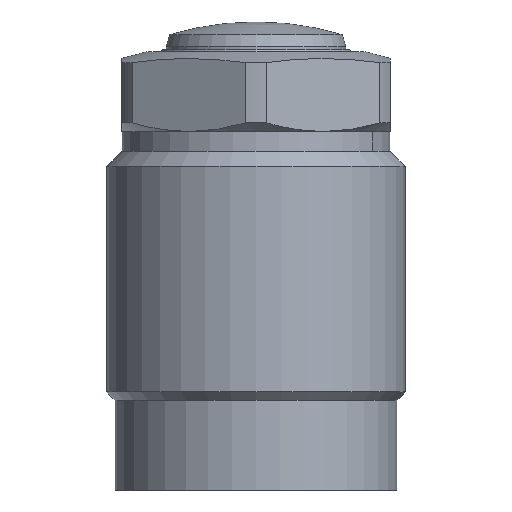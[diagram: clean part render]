
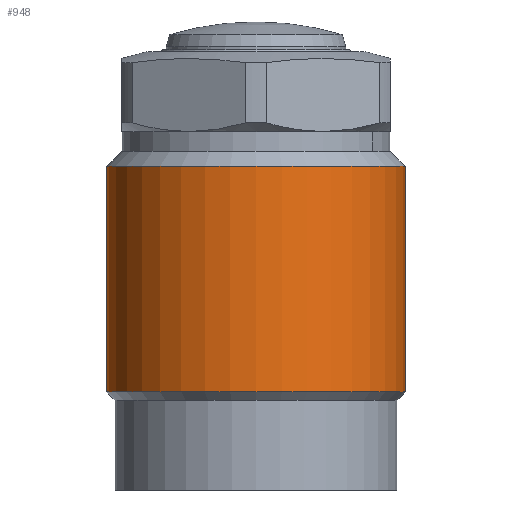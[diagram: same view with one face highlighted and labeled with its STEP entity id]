
A CAD part, front view. The second image highlights one B-rep face of the part: STEP entity #948.
In plain terms, the highlighted cylindrical face has radius 15 mm (diameter 30 mm), a partial arc.
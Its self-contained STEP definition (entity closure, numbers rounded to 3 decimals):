
#885=CARTESIAN_POINT('',(-15.0,0.0,-34.15));
#886=VERTEX_POINT('',#885);
#894=CARTESIAN_POINT('',(15.0,0.0,-34.15));
#895=VERTEX_POINT('',#894);
#902=CARTESIAN_POINT('',(-0.0,0.0,-34.15));
#903=DIRECTION('',(0.0,0.0,1.0));
#904=DIRECTION('',(1.0,0.0,-0.0));
#905=AXIS2_PLACEMENT_3D('',#902,#903,#904);
#906=CIRCLE('',#905,15.0);
#907=EDGE_CURVE('no 1633',#886,#895,#906,.T.);
#917=CARTESIAN_POINT('',(-15.0,0.0,-11.5));
#918=VERTEX_POINT('',#917);
#919=CARTESIAN_POINT('',(-15.0,0.0,-34.15));
#920=DIRECTION('',(-0.0,-0.0,1.0));
#921=VECTOR('',#920,1.0);
#922=LINE('',#919,#921);
#923=EDGE_CURVE('no 1643',#886,#918,#922,.T.);
#924=ORIENTED_EDGE('',*,*,#923,.F.);
#925=ORIENTED_EDGE('',*,*,#907,.T.);
#926=CARTESIAN_POINT('',(15.0,0.0,-11.5));
#927=VERTEX_POINT('',#926);
#928=CARTESIAN_POINT('',(15.0,0.0,-34.15));
#929=DIRECTION('',(0.0,0.0,1.0));
#930=VECTOR('',#929,1.0);
#931=LINE('',#928,#930);
#932=EDGE_CURVE('no 1651',#895,#927,#931,.T.);
#933=ORIENTED_EDGE('',*,*,#932,.T.);
#934=CARTESIAN_POINT('',(-0.0,0.0,-11.5));
#935=DIRECTION('',(0.0,0.0,1.0));
#936=DIRECTION('',(1.0,0.0,-0.0));
#937=AXIS2_PLACEMENT_3D('',#934,#935,#936);
#938=CIRCLE('',#937,15.0);
#939=EDGE_CURVE('no 1655',#918,#927,#938,.T.);
#940=ORIENTED_EDGE('',*,*,#939,.F.);
#941=EDGE_LOOP('',(#924,#925,#933,#940));
#942=FACE_OUTER_BOUND('',#941,.T.);
#943=CARTESIAN_POINT('',(0.0,0.0,-1.097));
#944=DIRECTION('',(0.0,0.0,1.0));
#945=DIRECTION('',(0.0,1.0,-0.0));
#946=AXIS2_PLACEMENT_3D('',#943,#944,#945);
#947=CYLINDRICAL_SURFACE('',#946,15.0);
#948=ADVANCED_FACE('no 1636',(#942),#947,.T.);
